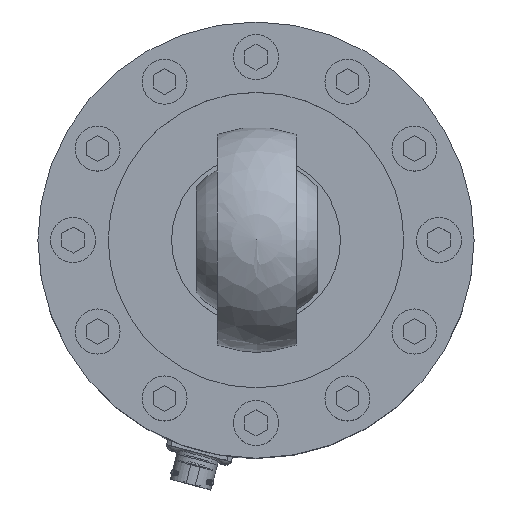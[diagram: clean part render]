
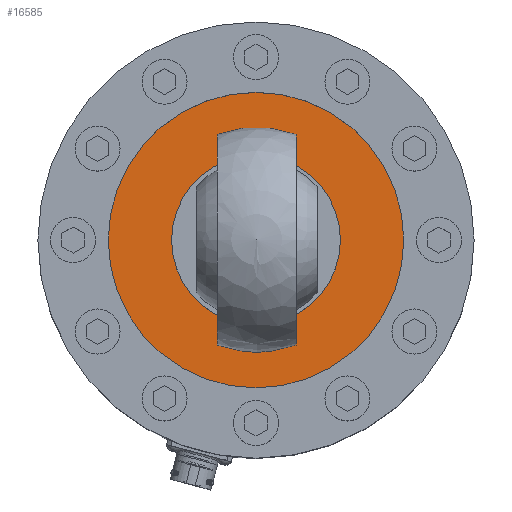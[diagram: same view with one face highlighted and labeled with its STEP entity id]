
A CAD part, top view. The second image highlights one B-rep face of the part: STEP entity #16585.
In plain terms, the highlighted planar face has unit normal (0, 0, 1).
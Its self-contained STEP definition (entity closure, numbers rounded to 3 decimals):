
#800=FACE_BOUND('',#5624,.T.);
#1158=PLANE('',#18113);
#4531=FACE_OUTER_BOUND('',#5623,.T.);
#5623=EDGE_LOOP('',(#13961,#13962));
#5624=EDGE_LOOP('',(#13963,#13964));
#6677=CIRCLE('',#18111,52.5);
#6678=CIRCLE('',#18112,52.5);
#6679=CIRCLE('',#18114,30.);
#6680=CIRCLE('',#18115,30.);
#7949=VERTEX_POINT('',#28836);
#7950=VERTEX_POINT('',#28838);
#7951=VERTEX_POINT('',#28842);
#7952=VERTEX_POINT('',#28843);
#10093=EDGE_CURVE('',#7950,#7949,#6677,.T.);
#10094=EDGE_CURVE('',#7949,#7950,#6678,.T.);
#10095=EDGE_CURVE('',#7951,#7952,#6679,.T.);
#10096=EDGE_CURVE('',#7952,#7951,#6680,.T.);
#13961=ORIENTED_EDGE('',*,*,#10093,.T.);
#13962=ORIENTED_EDGE('',*,*,#10094,.T.);
#13963=ORIENTED_EDGE('',*,*,#10095,.F.);
#13964=ORIENTED_EDGE('',*,*,#10096,.F.);
#16585=ADVANCED_FACE('',(#4531,#800),#1158,.T.);
#18111=AXIS2_PLACEMENT_3D('',#28839,#21548,#21549);
#18112=AXIS2_PLACEMENT_3D('',#28840,#21550,#21551);
#18113=AXIS2_PLACEMENT_3D('',#28841,#21552,#21553);
#18114=AXIS2_PLACEMENT_3D('',#28844,#21554,#21555);
#18115=AXIS2_PLACEMENT_3D('',#28845,#21556,#21557);
#21548=DIRECTION('center_axis',(0.,0.,
1.));
#21549=DIRECTION('ref_axis',(-1.,0.,0.));
#21550=DIRECTION('center_axis',(0.,0.,
1.));
#21551=DIRECTION('ref_axis',(-1.,0.,0.));
#21552=DIRECTION('center_axis',(0.,0.,
1.));
#21553=DIRECTION('ref_axis',(-1.,0.,0.));
#21554=DIRECTION('center_axis',(0.,0.,
1.));
#21555=DIRECTION('ref_axis',(-1.,0.,0.));
#21556=DIRECTION('center_axis',(0.,0.,
1.));
#21557=DIRECTION('ref_axis',(-1.,0.,0.));
#28836=CARTESIAN_POINT('',(28.783,-30.668,19.556));
#28838=CARTESIAN_POINT('',(-76.217,-30.668,19.556));
#28839=CARTESIAN_POINT('Origin',(-23.717,-30.668,19.556));
#28840=CARTESIAN_POINT('Origin',(-23.717,-30.668,19.556));
#28841=CARTESIAN_POINT('Origin',(-53.717,-30.668,19.556));
#28842=CARTESIAN_POINT('',(-53.717,-30.668,19.556));
#28843=CARTESIAN_POINT('',(6.283,-30.668,19.556));
#28844=CARTESIAN_POINT('Origin',(-23.717,-30.668,19.556));
#28845=CARTESIAN_POINT('Origin',(-23.717,-30.668,19.556));
